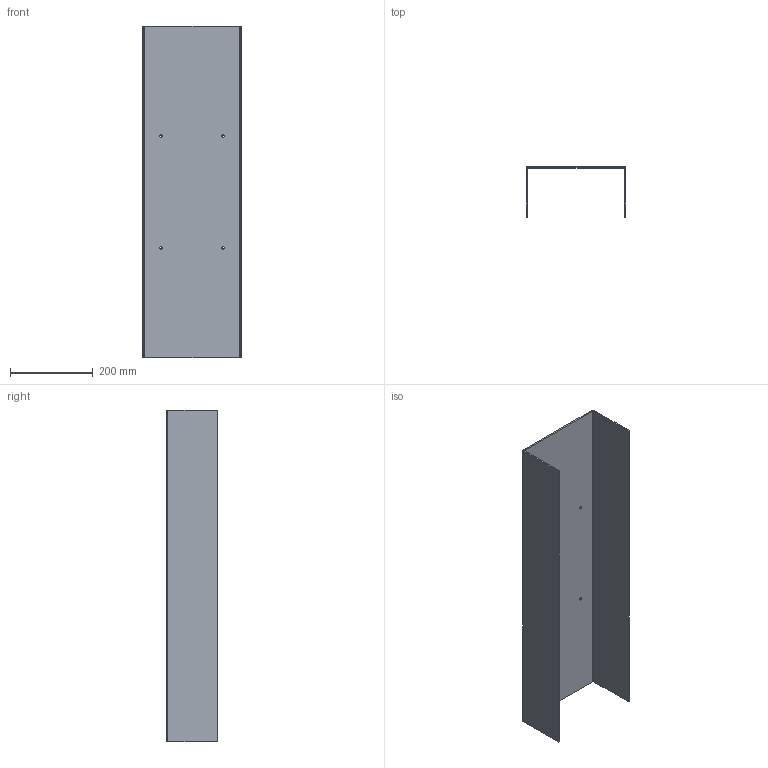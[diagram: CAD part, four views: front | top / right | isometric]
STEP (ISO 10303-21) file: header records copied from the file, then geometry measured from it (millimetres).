
FILE_DESCRIPTION (( 'STEP AP214' ), '1' );
FILE_NAME ('NF-600_lang.STEP', '2018-12-21T13:50:46', ( '' ), ( '' ), 'SwSTEP 2.0', 'SolidWorks 2018', '' );
FILE_SCHEMA (( 'AUTOMOTIVE_DESIGN' ));
Length unit declared in the file: millimetre
Products named in the file (1): NF-600_lang
Bounding box: 241 x 123 x 800 mm (x, y, z)
Volume: 1154060.7 mm3; surface area: 773165.6 mm2
Topology: 1 solids, 1 shells, 22 faces, 60 edges, 40 vertices
Faces by surface type: cylinder 12, plane 10
Entity records: 802 total; most frequent: DIRECTION 130, CARTESIAN_POINT 123, ORIENTED_EDGE 120, EDGE_CURVE 60, AXIS2_PLACEMENT_3D 47, VERTEX_POINT 40, VECTOR 36, LINE 36
